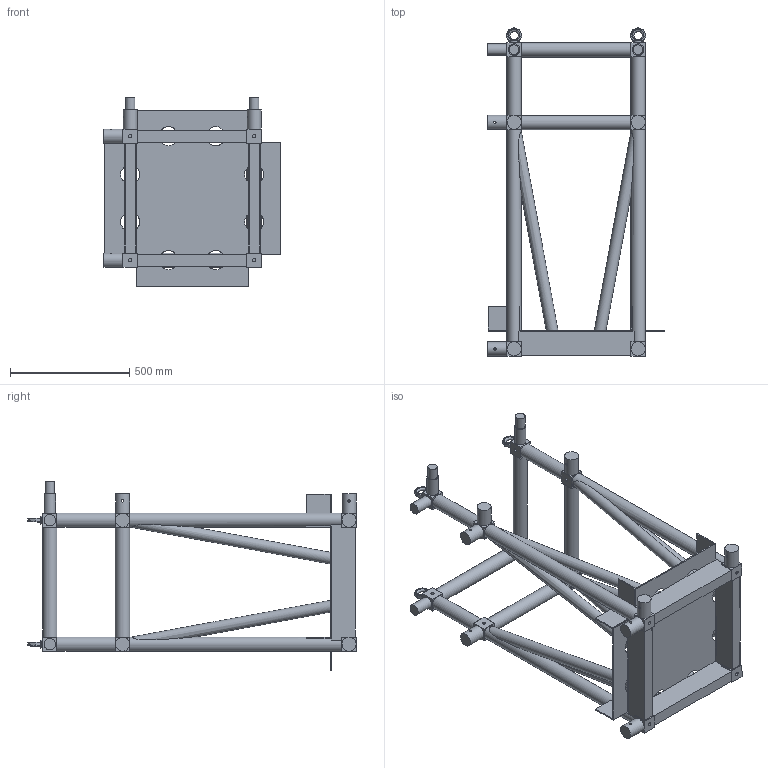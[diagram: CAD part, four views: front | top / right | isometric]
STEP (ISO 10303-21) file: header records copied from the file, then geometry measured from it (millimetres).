
FILE_DESCRIPTION(/* description */ (''),/* implementation_level */ '2;1');
FILE_NAME(/* name */ 'M:\Symbolen_NIEUW\STP\Corners\B100CW\B100CW-C003_111100081.stp',/* time_stamp */ '2017-12-06T15:03:06+01:00',/* author */ ('Kees'),/* organization */ (''),/* preprocessor_version */ 'ST-DEVELOPER v16.13',/* originating_system */ 'Autodesk Inventor 2018',/* authorisation */ '');
FILE_SCHEMA (('AUTOMOTIVE_DESIGN { 1 0 10303 214 3 1 1 }'));
Products named in the file (1): 260019918
Bounding box: 739 x 1377.17 x 790 mm (x, y, z)
Volume: 41676226.4 mm3; surface area: 4112065 mm2
Topology: 1 solids, 1 shells, 2740 faces, 7590 edges, 4892 vertices
Faces by surface type: plane 2164, cylinder 304, bspline 168, torus 76, sphere 16, cone 12
Full cylindrical faces by diameter (mm): 10 x8, 13.835 x68, 35 x4, 40 x2, 48 x4, 48.3 x8, 58.8 x8, 60 x12, 80 x8
Entity records: 108853 total; most frequent: CARTESIAN_POINT 37647, ORIENTED_EDGE 14708, DIRECTION 13228, EDGE_CURVE 7354, LINE 5926, VECTOR 5926, VERTEX_POINT 4790, AXIS2_PLACEMENT_3D 3651
